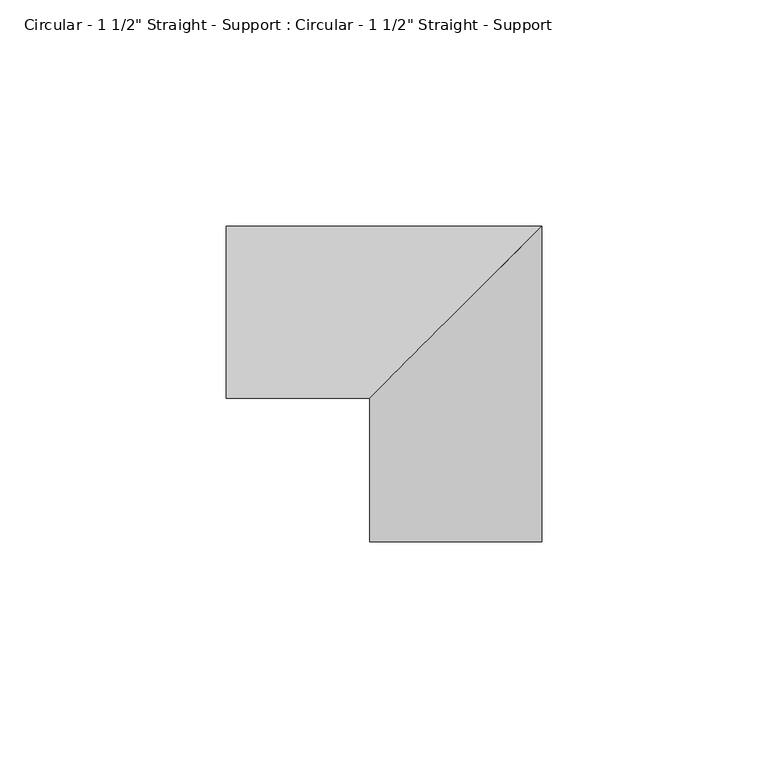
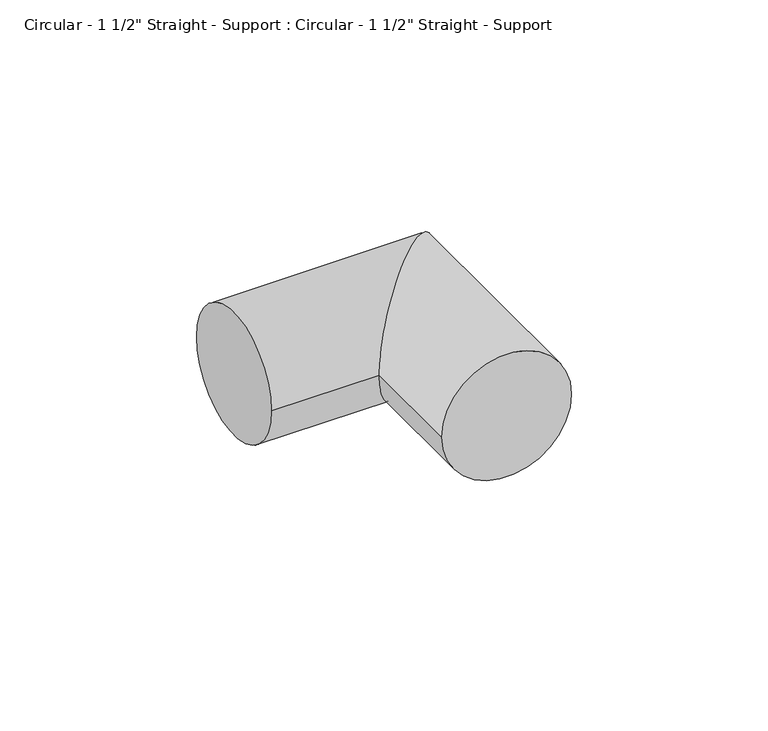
"""IFC4 building model written with IfcOpenShell, lengths in millimetres: proxy geometry."""

from ifc_helpers import new_model, si_unit, frame, origin, place, context, project, spatial, circle_curve, ellipse_curve, source, transform, mapped, element, save
from ifc_brep_helpers import plane_surface, cylinder_surface, advanced_brep


def proxy_d6ac6665(model_context):
    return source(origin(), model_context, "Body", "AdvancedBrep", [
        advanced_brep(
        [(69.85, -50.8, 19.05), (31.75, -50.8, 19.05), (0.0, 19.05, 19.05), (0.0, -19.05, 19.05), (69.85, 19.05, 19.05), (31.75, -19.05, 19.05)],
        [
            (0, 1, circle_curve(frame((50.8, -50.8, 19.05), z_axis=(0.0, -1.0, 0.0), x_axis=(-1.0, 0.0, 0.0)), 19.05)),
            (1, 0, circle_curve(frame((50.8, -50.8, 19.05), z_axis=(0.0, -1.0, 0.0), x_axis=(-1.0, 0.0, 0.0)), 19.05)),
            (2, 3, circle_curve(frame((0.0, 0.0, 19.05), z_axis=(-1.0, 0.0, 0.0), x_axis=(0.0, -1.0, 0.0)), 19.05)),
            (3, 2, circle_curve(frame((0.0, 0.0, 19.05), z_axis=(-1.0, 0.0, 0.0), x_axis=(0.0, -1.0, 0.0)), 19.05)),
            (0, 4),
            (4, 5, ellipse_curve(frame((50.8, 0.0, 19.05), z_axis=(0.7071067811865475, -0.7071067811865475, 0.0), x_axis=(-0.7071067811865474, -0.7071067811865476, 0.0)), 26.9407684, 19.05)),
            (5, 1),
            (5, 4, ellipse_curve(frame((50.8, 0.0, 19.05), z_axis=(0.7071067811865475, -0.7071067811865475, 0.0), x_axis=(-0.7071067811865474, -0.7071067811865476, 0.0)), 26.9407684, 19.05)),
            (4, 2),
            (3, 5),
        ],
        [
            plane_surface(frame((50.8, -50.8, 19.05), z_axis=(0.0, -1.0, 0.0), x_axis=(0.0, 0.0, 1.0))),
            plane_surface(frame((0.0, 0.0, 19.05), z_axis=(-1.0, 0.0, 0.0), x_axis=(0.0, 0.0, 1.0))),
            cylinder_surface(frame((50.8, -50.8, 19.05), z_axis=(0.0, -1.0, 0.0), x_axis=(-1.0, 0.0, 0.0)), 19.05),
            cylinder_surface(frame((50.8, 0.0, 19.05), z_axis=(1.0, 0.0, 0.0), x_axis=(0.0, -1.0, 0.0)), 19.05),
        ],
        [
            (0, [[1, 2]]),
            (1, [[3, 4]]),
            (2, [[-1, 5, 6, 7]]),
            (2, [[-2, -7, 8, -5]]),
            (3, [[-6, 9, -4, 10]]),
            (3, [[-8, -10, -3, -9]]),
        ],
    ),
    ])


if __name__ == "__main__":
    model = new_model("IFC4")
    model_context = context("Model", 3, world=origin())
    ifc_project = project(units=[si_unit("LENGTHUNIT", "METRE", prefix="MILLI")], contexts=[model_context])
    site = spatial("IfcSite", under=ifc_project)
    building = spatial("IfcBuilding", under=site)
    placement = place(None, origin())
    proxy_shape = proxy_d6ac6665(model_context)
    element("IfcBuildingElementProxy", 1, Name="Circular - 1 1/2\" Straight - Support : Circular - 1 1/2\" Straight - Support", ObjectType="Circular - 1 1/2\" Straight - Support : Circular - 1 1/2\" Straight - Support", at=placement, inside=building, context=model_context, shape_type="MappedRepresentation", body=[
        mapped(proxy_shape, transform((0.0, 0.0, 0.0), x_axis=(1.0, 0.0, 0.0), y_axis=(0.0, 1.0, 0.0), z_axis=(0.0, 0.0, 1.0))),
    ])
    save(model, "model.ifc")
